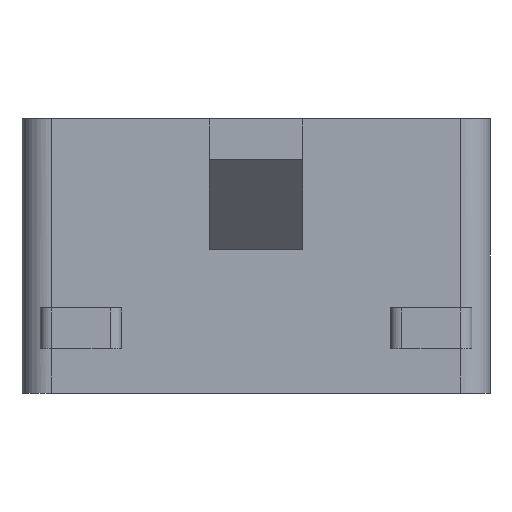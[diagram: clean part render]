
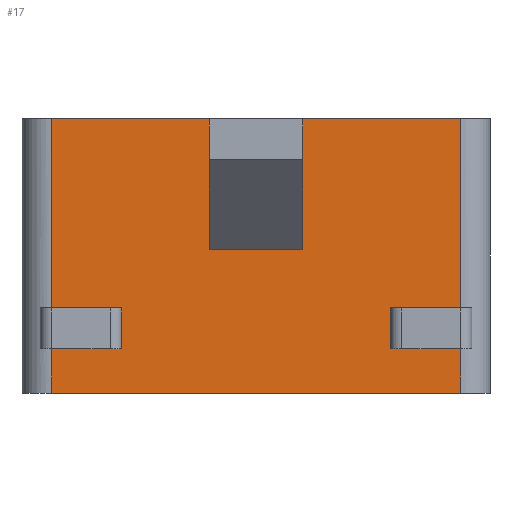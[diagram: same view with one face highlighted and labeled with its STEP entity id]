
A CAD part, left-side view. The second image highlights one B-rep face of the part: STEP entity #17.
In plain terms, the highlighted planar face has unit normal (-1, 0, 0).
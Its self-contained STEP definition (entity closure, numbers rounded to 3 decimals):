
#17 = ADVANCED_FACE('',(#18),#148,.F.);
#18 = FACE_BOUND('',#19,.F.);
#19 = EDGE_LOOP('',(#20,#30,#38,#46,#54,#62,#70,#78,#86,#94,#102,#110,
    #118,#126,#134,#142));
#20 = ORIENTED_EDGE('',*,*,#21,.F.);
#21 = EDGE_CURVE('',#22,#24,#26,.T.);
#22 = VERTEX_POINT('',#23);
#23 = CARTESIAN_POINT('',(-46.6,-35.1,47.));
#24 = VERTEX_POINT('',#25);
#25 = CARTESIAN_POINT('',(-46.6,-8.,47.));
#26 = LINE('',#27,#28);
#27 = CARTESIAN_POINT('',(-46.6,-40.1,47.));
#28 = VECTOR('',#29,1.);
#29 = DIRECTION('',(0.,1.,0.));
#30 = ORIENTED_EDGE('',*,*,#31,.F.);
#31 = EDGE_CURVE('',#32,#22,#34,.T.);
#32 = VERTEX_POINT('',#33);
#33 = CARTESIAN_POINT('',(-46.6,-35.1,14.6));
#34 = LINE('',#35,#36);
#35 = CARTESIAN_POINT('',(-46.6,-35.1,0.));
#36 = VECTOR('',#37,1.);
#37 = DIRECTION('',(0.,0.,1.));
#38 = ORIENTED_EDGE('',*,*,#39,.F.);
#39 = EDGE_CURVE('',#40,#32,#42,.T.);
#40 = VERTEX_POINT('',#41);
#41 = CARTESIAN_POINT('',(-46.6,-23.,14.6));
#42 = LINE('',#43,#44);
#43 = CARTESIAN_POINT('',(-46.6,-38.55,14.6));
#44 = VECTOR('',#45,1.);
#45 = DIRECTION('',(0.,-1.,0.));
#46 = ORIENTED_EDGE('',*,*,#47,.F.);
#47 = EDGE_CURVE('',#48,#40,#50,.T.);
#48 = VERTEX_POINT('',#49);
#49 = CARTESIAN_POINT('',(-46.6,-23.,7.6));
#50 = LINE('',#51,#52);
#51 = CARTESIAN_POINT('',(-46.6,-23.,3.8));
#52 = VECTOR('',#53,1.);
#53 = DIRECTION('',(0.,0.,1.));
#54 = ORIENTED_EDGE('',*,*,#55,.T.);
#55 = EDGE_CURVE('',#48,#56,#58,.T.);
#56 = VERTEX_POINT('',#57);
#57 = CARTESIAN_POINT('',(-46.6,-35.1,7.6));
#58 = LINE('',#59,#60);
#59 = CARTESIAN_POINT('',(-46.6,-38.55,7.6));
#60 = VECTOR('',#61,1.);
#61 = DIRECTION('',(0.,-1.,0.));
#62 = ORIENTED_EDGE('',*,*,#63,.F.);
#63 = EDGE_CURVE('',#64,#56,#66,.T.);
#64 = VERTEX_POINT('',#65);
#65 = CARTESIAN_POINT('',(-46.6,-35.1,0.));
#66 = LINE('',#67,#68);
#67 = CARTESIAN_POINT('',(-46.6,-35.1,0.));
#68 = VECTOR('',#69,1.);
#69 = DIRECTION('',(0.,0.,1.));
#70 = ORIENTED_EDGE('',*,*,#71,.T.);
#71 = EDGE_CURVE('',#64,#72,#74,.T.);
#72 = VERTEX_POINT('',#73);
#73 = CARTESIAN_POINT('',(-46.6,35.1,0.));
#74 = LINE('',#75,#76);
#75 = CARTESIAN_POINT('',(-46.6,-40.1,0.));
#76 = VECTOR('',#77,1.);
#77 = DIRECTION('',(0.,1.,0.));
#78 = ORIENTED_EDGE('',*,*,#79,.T.);
#79 = EDGE_CURVE('',#72,#80,#82,.T.);
#80 = VERTEX_POINT('',#81);
#81 = CARTESIAN_POINT('',(-46.6,35.1,7.6));
#82 = LINE('',#83,#84);
#83 = CARTESIAN_POINT('',(-46.6,35.1,0.));
#84 = VECTOR('',#85,1.);
#85 = DIRECTION('',(0.,0.,1.));
#86 = ORIENTED_EDGE('',*,*,#87,.T.);
#87 = EDGE_CURVE('',#80,#88,#90,.T.);
#88 = VERTEX_POINT('',#89);
#89 = CARTESIAN_POINT('',(-46.6,23.,7.6));
#90 = LINE('',#91,#92);
#91 = CARTESIAN_POINT('',(-46.6,-8.55,7.6));
#92 = VECTOR('',#93,1.);
#93 = DIRECTION('',(0.,-1.,0.));
#94 = ORIENTED_EDGE('',*,*,#95,.T.);
#95 = EDGE_CURVE('',#88,#96,#98,.T.);
#96 = VERTEX_POINT('',#97);
#97 = CARTESIAN_POINT('',(-46.6,23.,14.6));
#98 = LINE('',#99,#100);
#99 = CARTESIAN_POINT('',(-46.6,23.,3.8));
#100 = VECTOR('',#101,1.);
#101 = DIRECTION('',(0.,0.,1.));
#102 = ORIENTED_EDGE('',*,*,#103,.F.);
#103 = EDGE_CURVE('',#104,#96,#106,.T.);
#104 = VERTEX_POINT('',#105);
#105 = CARTESIAN_POINT('',(-46.6,35.1,14.6));
#106 = LINE('',#107,#108);
#107 = CARTESIAN_POINT('',(-46.6,-8.55,14.6));
#108 = VECTOR('',#109,1.);
#109 = DIRECTION('',(0.,-1.,0.));
#110 = ORIENTED_EDGE('',*,*,#111,.T.);
#111 = EDGE_CURVE('',#104,#112,#114,.T.);
#112 = VERTEX_POINT('',#113);
#113 = CARTESIAN_POINT('',(-46.6,35.1,47.));
#114 = LINE('',#115,#116);
#115 = CARTESIAN_POINT('',(-46.6,35.1,0.));
#116 = VECTOR('',#117,1.);
#117 = DIRECTION('',(0.,0.,1.));
#118 = ORIENTED_EDGE('',*,*,#119,.F.);
#119 = EDGE_CURVE('',#120,#112,#122,.T.);
#120 = VERTEX_POINT('',#121);
#121 = CARTESIAN_POINT('',(-46.6,8.,47.));
#122 = LINE('',#123,#124);
#123 = CARTESIAN_POINT('',(-46.6,-40.1,47.));
#124 = VECTOR('',#125,1.);
#125 = DIRECTION('',(0.,1.,0.));
#126 = ORIENTED_EDGE('',*,*,#127,.F.);
#127 = EDGE_CURVE('',#128,#120,#130,.T.);
#128 = VERTEX_POINT('',#129);
#129 = CARTESIAN_POINT('',(-46.6,8.,24.6));
#130 = LINE('',#131,#132);
#131 = CARTESIAN_POINT('',(-46.6,8.,18.568));
#132 = VECTOR('',#133,1.);
#133 = DIRECTION('',(0.,0.,1.));
#134 = ORIENTED_EDGE('',*,*,#135,.T.);
#135 = EDGE_CURVE('',#128,#136,#138,.T.);
#136 = VERTEX_POINT('',#137);
#137 = CARTESIAN_POINT('',(-46.6,-8.,24.6));
#138 = LINE('',#139,#140);
#139 = CARTESIAN_POINT('',(-46.6,-24.05,24.6));
#140 = VECTOR('',#141,1.);
#141 = DIRECTION('',(0.,-1.,0.));
#142 = ORIENTED_EDGE('',*,*,#143,.T.);
#143 = EDGE_CURVE('',#136,#24,#144,.T.);
#144 = LINE('',#145,#146);
#145 = CARTESIAN_POINT('',(-46.6,-8.,20.));
#146 = VECTOR('',#147,1.);
#147 = DIRECTION('',(0.,0.,1.));
#148 = PLANE('',#149);
#149 = AXIS2_PLACEMENT_3D('',#150,#151,#152);
#150 = CARTESIAN_POINT('',(-46.6,-40.1,0.));
#151 = DIRECTION('',(1.,0.,0.));
#152 = DIRECTION('',(0.,0.,1.));
